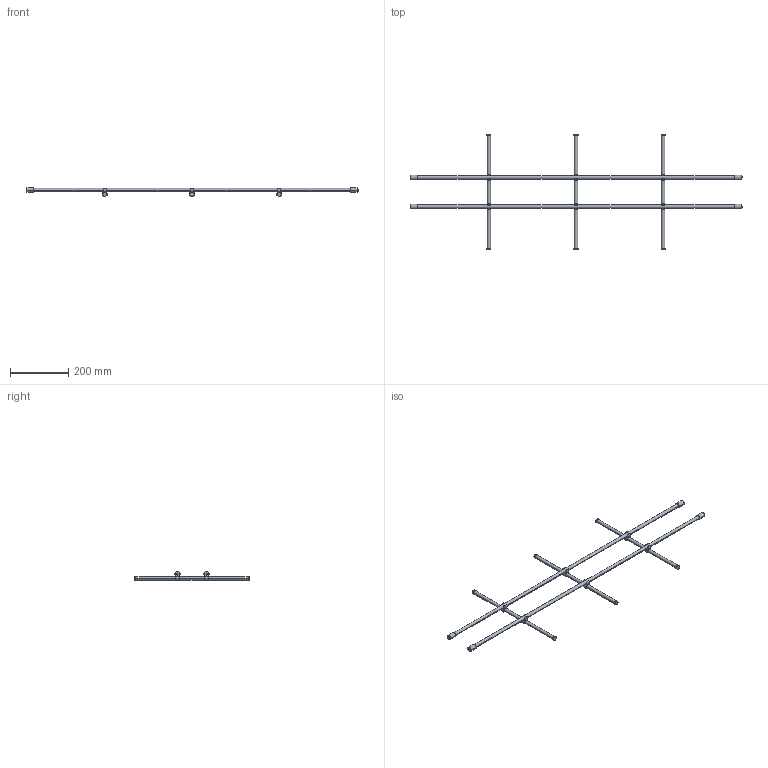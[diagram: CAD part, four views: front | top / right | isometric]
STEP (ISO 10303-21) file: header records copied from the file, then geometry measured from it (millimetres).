
FILE_DESCRIPTION (( 'STEP AP214' ), '1' );
FILE_NAME ('Magic-Classic_NL-430-KAB 1200.step', '2010-09-16T12:49:34', ( 'grass' ), ( '' ), 'SwSTEP 2.0', 'SolidWorks 2010', '' );
FILE_SCHEMA (( 'AUTOMOTIVE_DESIGN' ));
Length unit declared in the file: millimetre
Products named in the file (1): Magic-Classic_NL-430-KAB 1200
Bounding box: 1143 x 395 x 30.45 mm (x, y, z)
Volume: 416563.4 mm3; surface area: 138679.9 mm2
Topology: 1 solids, 1 shells, 190 faces, 534 edges, 356 vertices
Faces by surface type: plane 104, cylinder 86
Entity records: 6260 total; most frequent: DIRECTION 1136, CARTESIAN_POINT 1081, ORIENTED_EDGE 1068, EDGE_CURVE 534, AXIS2_PLACEMENT_3D 411, VERTEX_POINT 356, VECTOR 314, LINE 314
